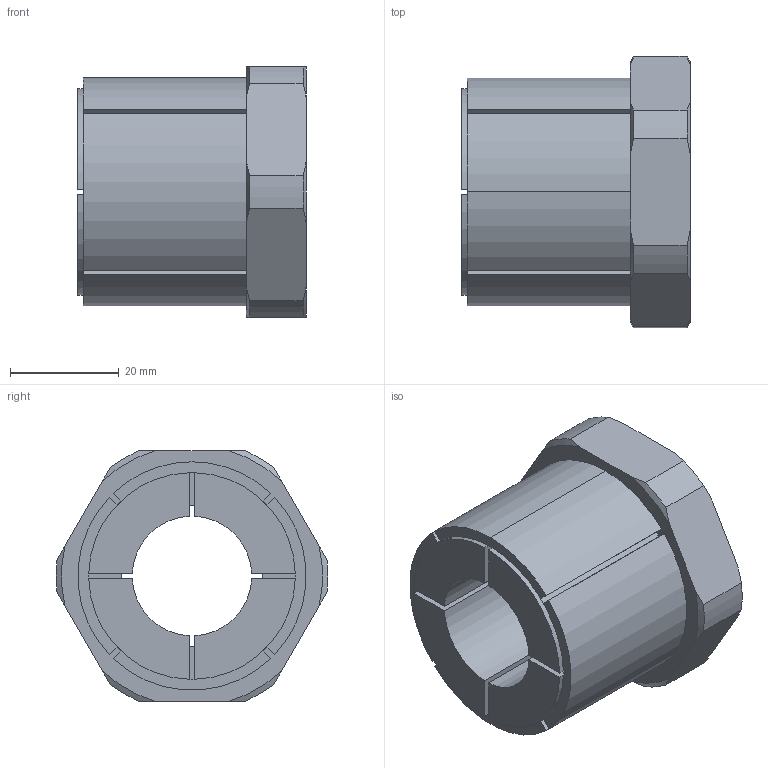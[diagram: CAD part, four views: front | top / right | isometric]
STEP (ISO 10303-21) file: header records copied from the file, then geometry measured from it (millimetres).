
FILE_DESCRIPTION (( 'STEP AP203' ), '1' );
FILE_NAME ('KBS 58 - 22 x 42.STEP', '2015-07-05T19:58:18', ( '' ), ( '' ), 'SwSTEP 2.0', 'SolidWorks 2010', '' );
FILE_SCHEMA (( 'CONFIG_CONTROL_DESIGN' ));
Length unit declared in the file: millimetre
Products named in the file (1): KBS 58 - 22 x 42
Bounding box: 42 x 49.96 x 46 mm (x, y, z)
Volume: 44859.3 mm3; surface area: 14577.5 mm2
Topology: 1 solids, 1 shells, 79 faces, 220 edges, 144 vertices
Faces by surface type: plane 37, cylinder 26, cone 16
Entity records: 2687 total; most frequent: CARTESIAN_POINT 564, ORIENTED_EDGE 440, DIRECTION 428, EDGE_CURVE 220, AXIS2_PLACEMENT_3D 160, VERTEX_POINT 144, LINE 108, VECTOR 108
